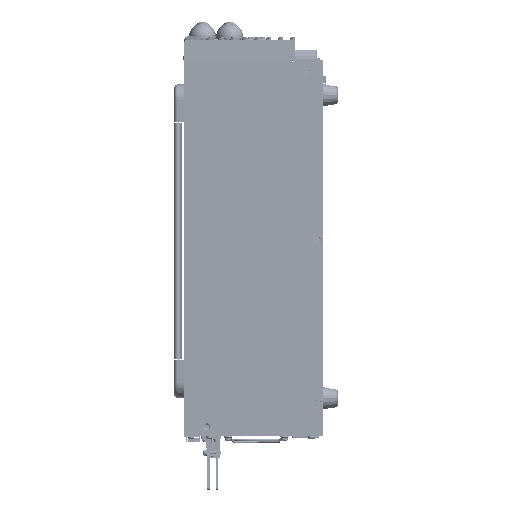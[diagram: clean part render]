
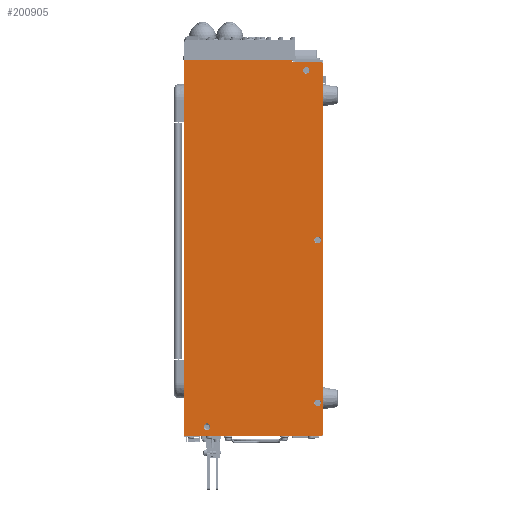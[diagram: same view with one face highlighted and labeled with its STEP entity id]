
A CAD part, left-side view. The second image highlights one B-rep face of the part: STEP entity #200905.
In plain terms, the highlighted planar face has unit normal (-1, 0, 0).
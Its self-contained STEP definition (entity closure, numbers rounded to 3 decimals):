
#12828=DIRECTION('',(0.,1.,0.));
#12829=VECTOR('',#12828,3.756);
#12830=CARTESIAN_POINT('',(-4.181,1.087,0.));
#12831=LINE('',#12830,#12829);
#25044=CARTESIAN_POINT('',(-4.181,4.055,
-12.756));
#25045=DIRECTION('',(-1.,0.,0.));
#25046=DIRECTION('',(0.,1.,0.));
#25047=AXIS2_PLACEMENT_3D('',#25044,#25045,#25046);
#25049=CARTESIAN_POINT('',(-4.181,4.055,
-12.756));
#25050=DIRECTION('',(-1.,0.,0.));
#25051=DIRECTION('',(0.,-1.,0.));
#25052=AXIS2_PLACEMENT_3D('',#25049,#25050,#25051);
#25054=CARTESIAN_POINT('',(-4.181,0.205,
-11.929));
#25055=DIRECTION('',(-1.,0.,0.));
#25056=DIRECTION('',(0.,1.,0.));
#25057=AXIS2_PLACEMENT_3D('',#25054,#25055,#25056);
#25059=CARTESIAN_POINT('',(-4.181,0.205,
-11.929));
#25060=DIRECTION('',(-1.,0.,0.));
#25061=DIRECTION('',(0.,-1.,0.));
#25062=AXIS2_PLACEMENT_3D('',#25059,#25060,#25061);
#25064=CARTESIAN_POINT('',(-4.181,0.205,
-6.26));
#25065=DIRECTION('',(-1.,0.,0.));
#25066=DIRECTION('',(0.,1.,0.));
#25067=AXIS2_PLACEMENT_3D('',#25064,#25065,#25066);
#25069=CARTESIAN_POINT('',(-4.181,0.205,
-6.26));
#25070=DIRECTION('',(-1.,0.,0.));
#25071=DIRECTION('',(0.,-1.,0.));
#25072=AXIS2_PLACEMENT_3D('',#25069,#25070,#25071);
#25074=CARTESIAN_POINT('',(-4.181,0.598,
-0.354));
#25075=DIRECTION('',(-1.,0.,0.));
#25076=DIRECTION('',(0.,1.,0.));
#25077=AXIS2_PLACEMENT_3D('',#25074,#25075,#25076);
#25079=CARTESIAN_POINT('',(-4.181,0.598,
-0.354));
#25080=DIRECTION('',(-1.,0.,0.));
#25081=DIRECTION('',(0.,-1.,0.));
#25082=AXIS2_PLACEMENT_3D('',#25079,#25080,#25081);
#25084=CARTESIAN_POINT('',(-4.181,0.098,
-0.13));
#25085=DIRECTION('',(1.,0.,0.));
#25086=DIRECTION('',(0.,0.,1.));
#25087=AXIS2_PLACEMENT_3D('',#25084,#25085,#25086);
#25089=CARTESIAN_POINT('',(-4.181,0.098,
-13.012));
#25090=DIRECTION('',(1.,0.,0.));
#25091=DIRECTION('',(0.,-1.,0.));
#25092=AXIS2_PLACEMENT_3D('',#25089,#25090,#25091);
#25638=DIRECTION('',(0.,0.,1.));
#25639=VECTOR('',#25638,0.051);
#25640=CARTESIAN_POINT('',(-4.181,1.087,
-0.051));
#25641=LINE('',#25640,#25639);
#25642=DIRECTION('',(0.,1.,0.));
#25643=VECTOR('',#25642,0.988);
#25644=CARTESIAN_POINT('',(-4.181,0.098,
-0.051));
#25645=LINE('',#25644,#25643);
#25666=DIRECTION('',(0.,0.,1.));
#25667=VECTOR('',#25666,12.882);
#25668=CARTESIAN_POINT('',(-4.181,0.02,
-13.012));
#25669=LINE('',#25668,#25667);
#25683=DIRECTION('',(0.,-1.,0.));
#25684=VECTOR('',#25683,4.744);
#25685=CARTESIAN_POINT('',(-4.181,4.843,
-13.091));
#25686=LINE('',#25685,#25684);
#25699=DIRECTION('',(0.,0.,-1.));
#25700=VECTOR('',#25699,13.091);
#25701=CARTESIAN_POINT('',(-4.181,4.843,0.));
#25702=LINE('',#25701,#25700);
#136250=CARTESIAN_POINT('',(-4.181,0.098,
-0.051));
#136251=CARTESIAN_POINT('',(-4.181,0.02,
-0.13));
#136252=VERTEX_POINT('',#136250);
#136253=VERTEX_POINT('',#136251);
#136254=CARTESIAN_POINT('',(-4.181,0.02,
-13.012));
#136255=VERTEX_POINT('',#136254);
#136256=CARTESIAN_POINT('',(-4.181,0.098,
-13.091));
#136257=VERTEX_POINT('',#136256);
#136258=CARTESIAN_POINT('',(-4.181,4.843,
-13.091));
#136259=VERTEX_POINT('',#136258);
#136260=CARTESIAN_POINT('',(-4.181,1.087,
-0.051));
#136261=VERTEX_POINT('',#136260);
#136262=CARTESIAN_POINT('',(-4.181,4.169,
-12.756));
#136263=CARTESIAN_POINT('',(-4.181,3.941,
-12.756));
#136264=VERTEX_POINT('',#136262);
#136265=VERTEX_POINT('',#136263);
#136266=CARTESIAN_POINT('',(-4.181,0.319,
-11.929));
#136267=CARTESIAN_POINT('',(-4.181,0.091,
-11.929));
#136268=VERTEX_POINT('',#136266);
#136269=VERTEX_POINT('',#136267);
#136270=CARTESIAN_POINT('',(-4.181,0.319,
-6.26));
#136271=CARTESIAN_POINT('',(-4.181,0.091,
-6.26));
#136272=VERTEX_POINT('',#136270);
#136273=VERTEX_POINT('',#136271);
#136274=CARTESIAN_POINT('',(-4.181,0.712,
-0.354));
#136275=CARTESIAN_POINT('',(-4.181,0.485,
-0.354));
#136276=VERTEX_POINT('',#136274);
#136277=VERTEX_POINT('',#136275);
#158532=CARTESIAN_POINT('',(-4.181,1.087,0.));
#158533=CARTESIAN_POINT('',(-4.181,4.843,0.));
#158534=VERTEX_POINT('',#158532);
#158535=VERTEX_POINT('',#158533);
#200861=CARTESIAN_POINT('',(-4.181,2.431,
-6.545));
#200862=DIRECTION('',(1.,0.,0.));
#200863=DIRECTION('',(0.,-1.,0.));
#200864=AXIS2_PLACEMENT_3D('',#200861,#200862,#200863);
#200865=PLANE('',#200864);
#200867=ORIENTED_EDGE('',*,*,#200866,.F.);
#200869=ORIENTED_EDGE('',*,*,#200868,.F.);
#200871=ORIENTED_EDGE('',*,*,#200870,.T.);
#200873=ORIENTED_EDGE('',*,*,#200872,.F.);
#200875=ORIENTED_EDGE('',*,*,#200874,.T.);
#200877=ORIENTED_EDGE('',*,*,#200876,.F.);
#200879=ORIENTED_EDGE('',*,*,#200878,.F.);
#200880=ORIENTED_EDGE('',*,*,#182239,.F.);
#200881=EDGE_LOOP('',(#200867,#200869,#200871,#200873,#200875,#200877,#200879,
#200880));
#200882=FACE_OUTER_BOUND('',#200881,.F.);
#200884=ORIENTED_EDGE('',*,*,#200883,.T.);
#200886=ORIENTED_EDGE('',*,*,#200885,.T.);
#200887=EDGE_LOOP('',(#200884,#200886));
#200888=FACE_BOUND('',#200887,.F.);
#200890=ORIENTED_EDGE('',*,*,#200889,.T.);
#200892=ORIENTED_EDGE('',*,*,#200891,.T.);
#200893=EDGE_LOOP('',(#200890,#200892));
#200894=FACE_BOUND('',#200893,.F.);
#200896=ORIENTED_EDGE('',*,*,#200895,.T.);
#200898=ORIENTED_EDGE('',*,*,#200897,.T.);
#200899=EDGE_LOOP('',(#200896,#200898));
#200900=FACE_BOUND('',#200899,.F.);
#200901=ORIENTED_EDGE('',*,*,#200843,.T.);
#200902=ORIENTED_EDGE('',*,*,#200854,.T.);
#200903=EDGE_LOOP('',(#200901,#200902));
#200904=FACE_BOUND('',#200903,.F.);
#200905=ADVANCED_FACE('',(#200882,#200888,#200894,#200900,#200904),#200865,.F.);
#25048=CIRCLE('',#25047,0.114);
#25053=CIRCLE('',#25052,0.114);
#25058=CIRCLE('',#25057,0.114);
#25063=CIRCLE('',#25062,0.114);
#25068=CIRCLE('',#25067,0.114);
#25073=CIRCLE('',#25072,0.114);
#25078=CIRCLE('',#25077,0.114);
#25083=CIRCLE('',#25082,0.114);
#25088=CIRCLE('',#25087,0.079);
#25093=CIRCLE('',#25092,0.079);
#182239=EDGE_CURVE('',#158534,#158535,#12831,.T.);
#200843=EDGE_CURVE('',#136264,#136265,#25048,.T.);
#200854=EDGE_CURVE('',#136265,#136264,#25053,.T.);
#200866=EDGE_CURVE('',#136261,#158534,#25641,.T.);
#200868=EDGE_CURVE('',#136252,#136261,#25645,.T.);
#200870=EDGE_CURVE('',#136252,#136253,#25088,.T.);
#200872=EDGE_CURVE('',#136255,#136253,#25669,.T.);
#200874=EDGE_CURVE('',#136255,#136257,#25093,.T.);
#200876=EDGE_CURVE('',#136259,#136257,#25686,.T.);
#200878=EDGE_CURVE('',#158535,#136259,#25702,.T.);
#200883=EDGE_CURVE('',#136268,#136269,#25058,.T.);
#200885=EDGE_CURVE('',#136269,#136268,#25063,.T.);
#200889=EDGE_CURVE('',#136272,#136273,#25068,.T.);
#200891=EDGE_CURVE('',#136273,#136272,#25073,.T.);
#200895=EDGE_CURVE('',#136276,#136277,#25078,.T.);
#200897=EDGE_CURVE('',#136277,#136276,#25083,.T.);
